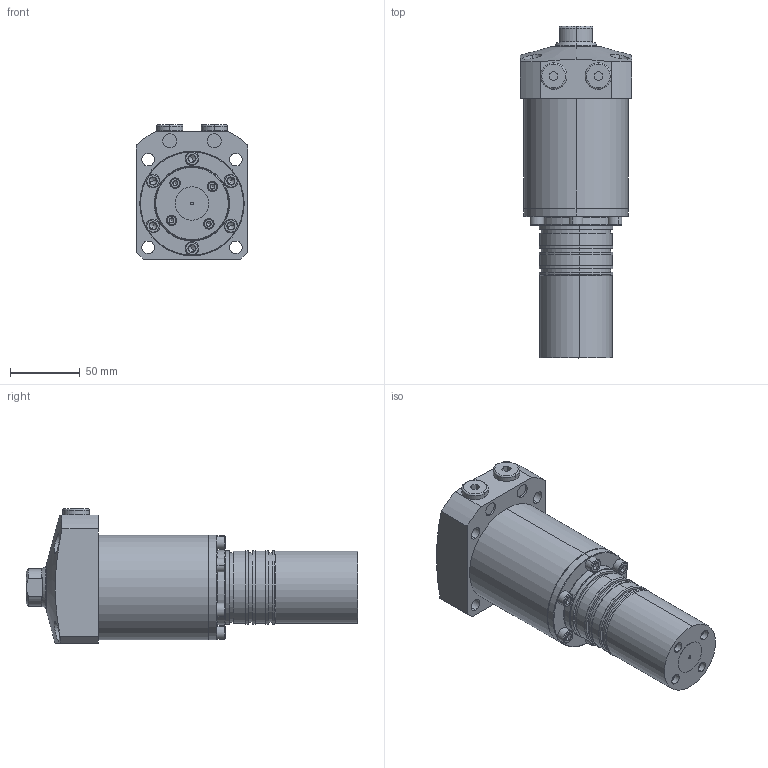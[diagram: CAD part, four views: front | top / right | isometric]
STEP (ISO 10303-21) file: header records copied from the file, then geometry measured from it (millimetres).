
FILE_DESCRIPTION (( 'STEP AP203' ), '1' );
FILE_NAME ('680750-CAM-075.step', '2016-11-02T03:27:25', ( 'wxp' ), ( '' ), 'SwSTEP 2.0', 'SolidWorks 2011', '' );
FILE_SCHEMA (( 'CONFIG_CONTROL_DESIGN' ));
Length unit declared in the file: millimetre
Products named in the file (7): 680750-CAM-075; 680750-CAM-075-1^680750-CAM-075; 68075-CA-15-5^680750-CAM-075; 68075-CA-15-4^680750-CAM-075; 68075-CA-15-3^680750-CAM-075; 68075-CA-75-2^680750-CAM-075; 68075-CA-75-1^680750-CAM-075
Assembly tree (12 placements, depth 2):
  680750-CAM-075
    68075-CA-15-3^680750-CAM-075
    68075-CA-15-4^680750-CAM-075  x6
    68075-CA-15-5^680750-CAM-075  x2
    68075-CA-75-1^680750-CAM-075
    680750-CAM-075-1^680750-CAM-075
    68075-CA-75-2^680750-CAM-075
Bounding box: 80 x 238.3 x 96.5 mm (x, y, z)
Volume: 846688.7 mm3; surface area: 113605.2 mm2
Topology: 16 solids, 16 shells, 535 faces, 1031 edges, 562 vertices
Faces by surface type: plane 218, cylinder 155, cone 146, torus 16
Entity records: 10636 total; most frequent: CARTESIAN_POINT 2219, DIRECTION 1745, ORIENTED_EDGE 1394, AXIS2_PLACEMENT_3D 735, EDGE_CURVE 697, EDGE_LOOP 426, VERTEX_POINT 405, CIRCLE 366
